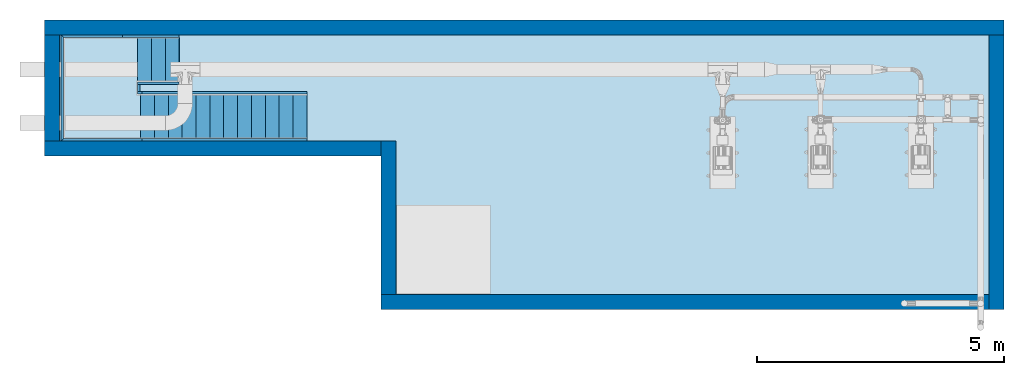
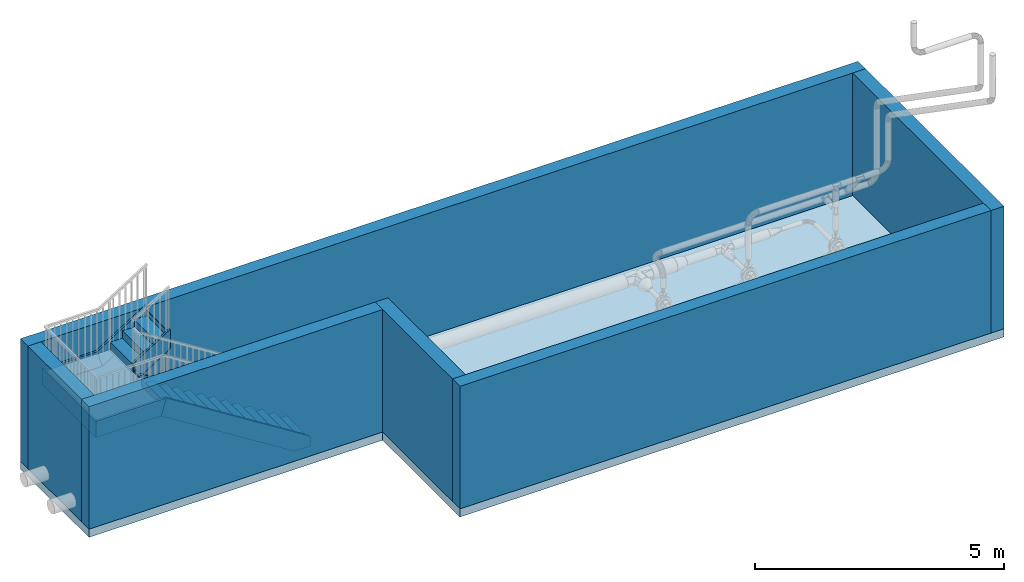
# One storey, part 1 of 12: 8 members, 6 walls, 2 slabs, 2 stair flights, 1 element without a shape of its own.
"""IFC2X3 building model written with IfcOpenShell, lengths in millimetres."""

from ifc_helpers import new_model, entity, si_unit, converted_unit, direction, frame, frame_2d, origin, place, context, subcontext, project, spatial, polyline, rectangle, outline, extrude, faceted_brep, material, layer, layer_set, layer_usage, type_object, element, aggregate, save


model = new_model("IFC2X3")

# Units and contexts
model_context = context("Model", 3, precision=0.01, world=origin(), true_north=direction((6.123031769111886e-17, 1.0)))
body_context = subcontext(model_context, "Body", "Model", "MODEL_VIEW")
ifc_project = project(units=[si_unit("LENGTHUNIT", "METRE", prefix="MILLI"), converted_unit("PLANEANGLEUNIT", "DEGREE", entity("IfcPlaneAngleMeasure", 0.017453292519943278), si_unit("PLANEANGLEUNIT", "RADIAN"), dimensions=[0, 0, 0, 0, 0, 0, 0]), si_unit("AREAUNIT", "SQUARE_METRE")], contexts=[model_context])

# Site, building, storey
site_placement = place(None, frame((7776.576483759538, 118.3519876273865, 0.0)))
site = spatial("IfcSite", under=ifc_project, at=site_placement, Name="Default", CompositionType="ELEMENT")
building_placement = place(site_placement, origin())
building = spatial("IfcBuilding", under=site, at=building_placement, Name="Bygning (endres i Project Information)", CompositionType="ELEMENT")
storey_placement = place(building_placement, frame((0.0, 0.0, 11000.0)))
storey = spatial("IfcBuildingStorey", under=building, at=storey_placement, Name="Plan U2 - Arbeid", CompositionType="ELEMENT", Elevation=10999.999999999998)

# Stair, members
type_product = type_object("IfcTypeProduct", Name="Assembled Stair:Stairs 1")
stair_placement = place(storey_placement, origin())
stair = element("IfcStair", 1, at=stair_placement, inside=storey, type_object=type_product, Name="Assembled Stair:Stair", ObjectType="Assembled Stair:Stairs 1", ShapeType="HALF_TURN_STAIR")
ifc_material_1 = material(Name="<Unnamed>")
member_type = type_object("IfcMemberType", Name="Stringer:Stringer - 50 mm Width", PredefinedType="STRINGER")
member_1_placement = place(stair_placement, origin())
member_1 = element("IfcMember", 2, at=member_1_placement, type_object=member_type, material=ifc_material_1, Name="Assembled Stair:Stair:2490742 Stringer 1", ObjectType="Stringer:Stringer - 50 mm Width", context=body_context, shape_type="SweptSolid", body=[
    extrude(outline(polyline([(-1432.2587999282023, -904.9236863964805), (-1061.600032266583, -904.9236863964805), (2020.8260618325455, 1037.7818350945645), (1905.2915702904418, 1437.7818350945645), (-1432.2587999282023, -665.7162973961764), (-1432.2587999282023, -904.9236863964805)])), frame((16741.742574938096, 32148.302500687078, 904.9236863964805), z_axis=(0.0, 1.0, 0.0), x_axis=(-1.0, 0.0, 0.0)), (0.0, 0.0, 1.0), 50.00000000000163),
])
member_2_placement = place(stair_placement, origin())
member_2 = element("IfcMember", 3, at=member_2_placement, type_object=member_type, material=ifc_material_1, Name="Assembled Stair:Stair:2490742 Stringer 2", ObjectType="Stringer:Stringer - 50 mm Width", context=body_context, shape_type="SweptSolid", body=[
    extrude(outline(polyline([(-1758.0348563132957, -1141.078691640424), (-1387.3760886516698, -1141.078691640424), (1661.9651436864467, 780.7750262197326), (1661.9651436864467, 1201.6268298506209), (1579.5155139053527, 1201.6268298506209), (-1758.0348563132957, -901.8713026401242), (-1758.0348563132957, -1141.078691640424)])), frame((16415.966518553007, 33098.302500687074, 1141.078691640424), z_axis=(0.0, 1.0, 0.0), x_axis=(-1.0, 0.0, 0.0)), (0.0, 0.0, 1.0), 50.00000000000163),
])
member_3_placement = place(stair_placement, origin())
member_3 = element("IfcMember", 4, at=member_3_placement, type_object=member_type, material=ifc_material_1, Name="Assembled Stair:Stair:2490742 Stringer 3", ObjectType="Stringer:Stringer - 50 mm Width", context=body_context, shape_type="SweptSolid", body=[
    extrude(outline(polyline([(-583.3015416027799, -200.0), (767.1192075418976, -200.0), (515.0183672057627, 200.0), (-698.8360331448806, 200.0), (-583.3015416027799, -200.0)])), frame((15051.660182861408, 34248.37469491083, 2484.517197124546), z_axis=(0.0, 1.0, 0.0), x_axis=(0.8459953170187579, 0.0, 0.5331903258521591)), (0.0, 0.0, 1.0), 50.0000000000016),
])
member_4_placement = place(stair_placement, origin())
member_4 = element("IfcMember", 5, at=member_4_placement, type_object=member_type, material=ifc_material_1, Name="Assembled Stair:Stair:2490742 Stringer 4", ObjectType="Stringer:Stringer - 50 mm Width", context=body_context, shape_type="SweptSolid", body=[
    extrude(outline(polyline([(-370.40622864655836, -200.0), (622.5070689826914, -200.0), (370.40622864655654, 200.0), (-622.5070689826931, 200.0), (-370.40622864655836, -200.0)])), frame((15174.001374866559, 33298.37469491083, 2561.6229904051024), z_axis=(0.0, 1.0, 0.0), x_axis=(0.8459953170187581, 0.0, 0.5331903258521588)), (0.0, 0.0, 1.0), 50.0000000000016),
])
member_5_placement = place(stair_placement, frame((13204.001374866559, 34248.37469491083, 1942.7055214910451)))
member_5 = element("IfcMember", 6, at=member_5_placement, type_object=member_type, material=ifc_material_1, Name="Assembled Stair:Stair:2490742 Stringer 5", ObjectType="Stringer:Stringer - 50 mm Width", context=body_context, shape_type="Brep", body=[
    faceted_brep([(1247.5503702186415, 0.0, 400.0), (1247.5503702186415, 50.0, 400.0), (0.0, 50.0, 400.0), (50.0, 0.0, 400.0), (1363.0848617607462, 0.0, 0.0), (50.0, 0.0, 0.0), (1363.0848617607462, 50.0, 0.0), (0.0, 50.0, 0.0)], [[[0, 1, 2, 3]], [[4, 0, 3, 5]], [[6, 4, 5, 7]], [[1, 6, 7, 2]], [[1, 0, 4, 6]], [[2, 7, 5, 3]]]),
])
member_6_placement = place(stair_placement, origin())
member_6 = element("IfcMember", 7, at=member_6_placement, type_object=member_type, material=ifc_material_1, Name="Assembled Stair:Stair:2490742 Stringer 6", ObjectType="Stringer:Stringer - 50 mm Width", context=body_context, shape_type="SweptSolid", body=[
    extrude(outline(polyline([(-1075.0360971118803, -25.0), (1075.0360971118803, -25.0), (1025.0360971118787, 25.0), (-1025.0360971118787, 25.0), (-1075.0360971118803, -25.0)])), frame((13229.001374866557, 33223.33859779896, 1942.705521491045), z_axis=(0.0, 0.0, 1.0), x_axis=(0.0, -1.0, 0.0)), (0.0, 0.0, 1.0), 400.0),
])
member_7_placement = place(stair_placement, frame((13204.00137486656, 32148.302500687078, 1942.7055214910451)))
member_7 = element("IfcMember", 8, at=member_7_placement, type_object=member_type, material=ifc_material_1, Name="Assembled Stair:Stair:2490742 Stringer 7", ObjectType="Stringer:Stringer - 50 mm Width", context=body_context, shape_type="Brep", body=[
    faceted_brep([(50.0, 50.0, 400.0), (0.0, 0.0, 400.0), (1632.4496297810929, 0.0, 400.0), (1632.4496297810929, 50.0, 400.0), (50.0, 50.0, 0.0), (1516.91513823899, 50.0, 0.0), (0.0, 0.0, 0.0), (1516.91513823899, 0.0, 0.0)], [[[0, 1, 2, 3]], [[4, 0, 3, 5]], [[6, 4, 5, 7]], [[1, 6, 7, 2]], [[1, 0, 4, 6]], [[2, 7, 5, 3]]]),
])
member_8_placement = place(stair_placement, origin())
member_8 = element("IfcMember", 9, at=member_8_placement, type_object=member_type, material=ifc_material_1, Name="Assembled Stair:Stair:2490742 Stringer 9", ObjectType="Stringer:Stringer - 50 mm Width", context=body_context, shape_type="SweptSolid", body=[
    extrude(rectangle(XDim=150.07219422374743, YDim=49.99999999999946, at=frame_2d((0.0, -1.0835776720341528e-12), x_axis=(1.0, 0.0))), frame((14779.001374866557, 33223.33859779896, 1942.705521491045), z_axis=(0.0, 0.0, 1.0), x_axis=(0.0, 1.0, 0.0)), (0.0, 0.0, 1.0), 400.0),
])

# Slab
ifc_material_2 = material(Name="Default Floor")
ifc_layer_1 = layer(ifc_material_2, 200.0)
ifc_layer_set_1 = layer_set([ifc_layer_1], Name="Floor:Generic 200mm")
ifc_layer_usage_1 = layer_usage(ifc_layer_set_1, "AXIS3", "POSITIVE", 0.0)
slab_type_1 = type_object("IfcSlabType", Name="Floor:Generic 200mm", PredefinedType="FLOOR", material=ifc_layer_set_1)
slab_1_placement = place(storey_placement, origin())
element("IfcSlab", 10, at=slab_1_placement, inside=storey, type_object=slab_type_1, material=ifc_layer_usage_1, Name="Floor:Generic 200mm", ObjectType="Floor:Generic 200mm", PredefinedType="FLOOR", context=body_context, shape_type="SweptSolid", body=[
    extrude(outline(polyline([(118.03012993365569, -8733.333333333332), (2867.4849350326, -8733.333333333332), (2867.4849350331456, 10666.666666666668), (-2985.515064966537, 10666.666666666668), (-2985.515064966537, -1933.3333333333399), (118.03012993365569, -1933.3333333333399), (118.03012993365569, -8733.333333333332)])), frame((21607.334708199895, 31730.27237075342, 0.0), z_axis=(0.0, 0.0, -1.0), x_axis=(0.0, 1.0, 0.0)), (0.0, 0.0, 1.0), 200.0),
])

slab_type_2 = type_object("IfcSlabType", Name="Non-Monolithic Landing:Non-Monolithic Landing", PredefinedType="LANDING")
slab_2_placement = place(stair_placement, origin())
slab_2 = element("IfcSlab", 11, at=slab_2_placement, type_object=slab_type_2, material=ifc_material_1, Name="Assembled Stair:Stair:2490742 Landing 1", ObjectType="Non-Monolithic Landing:Non-Monolithic Landing", PredefinedType="LANDING", context=body_context, shape_type="SweptSolid", body=[
    extrude(outline(polyline([(-1007.1737975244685, -471.42857142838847), (-107.1737975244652, -471.42857142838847), (-107.1737975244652, -411.428571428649), (142.89839669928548, -411.428571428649), (1042.8983966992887, -411.428571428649), (1042.8983966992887, 1088.5714285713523), (-1007.1737975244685, 1088.5714285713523), (-1007.1737975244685, -471.42857142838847)])), frame((14342.57280343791, 33205.47629821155, 2244.1176470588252), z_axis=(0.0, 0.0, 1.0), x_axis=(0.0, 1.0, 0.0)), (0.0, 0.0, 1.0), 49.99999999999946),
])

# Walls
ifc_material_3 = material(Name="Default Wall")
ifc_layer_2 = layer(ifc_material_3, 300.0)
ifc_layer_set_2 = layer_set([ifc_layer_2], Name="Basic Wall:Generic - 300mm")
ifc_layer_usage_2 = layer_usage(ifc_layer_set_2, "AXIS2", "NEGATIVE", 149.99999999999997)
wall_type = type_object("IfcWallType", Name="Basic Wall:Generic - 300mm", PredefinedType="STANDARD", material=ifc_layer_set_2)
wall_1_placement = place(storey_placement, frame((12874.001374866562, 34447.75730578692, 0.0)))
element("IfcWallStandardCase", 12, at=wall_1_placement, inside=storey, type_object=wall_type, material=ifc_layer_usage_2, Name="Basic Wall:Generic - 300mm", ObjectType="Basic Wall:Generic - 300mm", context=body_context, shape_type="SweptSolid", body=[
    extrude(rectangle(XDim=19400.000000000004, YDim=300.00000000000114, at=frame_2d((9700.000000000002, -1.0373923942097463e-12), x_axis=(-1.0, 0.0))), origin(), (0.0, 0.0, 1.0), 3000.0000000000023),
])
ifc_layer_usage_3 = layer_usage(ifc_layer_set_2, "AXIS2", "NEGATIVE", 149.99999999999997)
wall_2_placement = place(storey_placement, frame((32124.001374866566, 34297.75730578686, 0.0), z_axis=(0.0, 0.0, 1.0), x_axis=(0.0, -1.0, 0.0)))
element("IfcWallStandardCase", 13, at=wall_2_placement, inside=storey, type_object=wall_type, material=ifc_layer_usage_3, Name="Basic Wall:Generic - 300mm", ObjectType="Basic Wall:Generic - 300mm", context=body_context, shape_type="SweptSolid", body=[
    extrude(rectangle(XDim=5553.000000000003, YDim=300.00000000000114, at=frame_2d((2776.5000000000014, 1.7053025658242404e-13), x_axis=(-1.0, 0.0))), origin(), (0.0, 0.0, 1.0), 3000.0000000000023),
])
ifc_layer_usage_4 = layer_usage(ifc_layer_set_2, "AXIS2", "NEGATIVE", 149.99999999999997)
wall_3_placement = place(storey_placement, frame((31974.001374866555, 28894.757305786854, 0.0), z_axis=(0.0, 0.0, 1.0), x_axis=(-1.0, 0.0, 0.0)))
element("IfcWallStandardCase", 14, at=wall_3_placement, inside=storey, type_object=wall_type, material=ifc_layer_usage_4, Name="Basic Wall:Generic - 300mm", ObjectType="Basic Wall:Generic - 300mm", context=body_context, shape_type="SweptSolid", body=[
    extrude(rectangle(XDim=12299.999999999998, YDim=300.0000000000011, at=frame_2d((6149.999999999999, 4.263256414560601e-14), x_axis=(-1.0, 0.0))), origin(), (0.0, 0.0, 1.0), 3000.0000000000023),
])
ifc_layer_usage_5 = layer_usage(ifc_layer_set_2, "AXIS2", "POSITIVE", -149.99999999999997)
wall_4_placement = place(storey_placement, frame((13024.001374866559, 32148.302500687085, 0.0), z_axis=(0.0, 0.0, 1.0), x_axis=(0.0, 1.0, 0.0)))
element("IfcWallStandardCase", 15, at=wall_4_placement, inside=storey, type_object=wall_type, material=ifc_layer_usage_5, Name="Basic Wall:Generic - 300mm", ObjectType="Basic Wall:Generic - 300mm", context=body_context, shape_type="SweptSolid", body=[
    extrude(rectangle(XDim=2149.4548050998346, YDim=300.00000000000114, at=frame_2d((1074.7274025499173, -3.268496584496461e-13), x_axis=(-1.0, 0.0))), origin(), (0.0, 0.0, 1.0), 3000.0000000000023),
])
ifc_layer_usage_6 = layer_usage(ifc_layer_set_2, "AXIS2", "NEGATIVE", 149.99999999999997)
wall_5_placement = place(storey_placement, frame((12874.001374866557, 31998.302500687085, 0.0)))
element("IfcWallStandardCase", 16, at=wall_5_placement, inside=storey, type_object=wall_type, material=ifc_layer_usage_6, Name="Basic Wall:Generic - 300mm", ObjectType="Basic Wall:Generic - 300mm", context=body_context, shape_type="SweptSolid", body=[
    extrude(rectangle(XDim=6800.0000000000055, YDim=300.00000000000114, at=frame_2d((3400.0000000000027, -1.2079226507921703e-12), x_axis=(-1.0, 0.0))), origin(), (0.0, 0.0, 1.0), 3000.0000000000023),
])
ifc_layer_usage_7 = layer_usage(ifc_layer_set_2, "AXIS2", "NEGATIVE", 149.99999999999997)
wall_6_placement = place(storey_placement, frame((19824.00137486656, 29044.757305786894, 0.0), z_axis=(0.0, 0.0, 1.0), x_axis=(0.0, 1.0, 0.0)))
element("IfcWallStandardCase", 17, at=wall_6_placement, inside=storey, type_object=wall_type, material=ifc_layer_usage_7, Name="Basic Wall:Generic - 300mm", ObjectType="Basic Wall:Generic - 300mm", context=body_context, shape_type="SweptSolid", body=[
    extrude(rectangle(XDim=3103.545194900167, YDim=300.00000000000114, at=frame_2d((1551.7725974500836, 4.831690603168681e-13), x_axis=(-1.0, 0.0))), origin(), (0.0, 0.0, 1.0), 3000.0000000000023),
])

# Stair flight
stair_flight_type = type_object("IfcStairFlightType", Name="Non-Monolithic Run:50 mm Tread 10 mm Riser", PredefinedType="STRAIGHT")
stair_flight_1_placement = place(stair_placement, origin())
stair_flight_1 = element("IfcStairFlight", 18, at=stair_flight_1_placement, type_object=stair_flight_type, material=ifc_material_1, Name="Assembled Stair:Stair:2490742 Run 1", ObjectType="Non-Monolithic Run:50 mm Tread 10 mm Riser", NumberOfRiser=13, NumberOfTreads=12, RiserHeight=0.5789717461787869, TreadLength=0.9186351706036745, context=body_context, shape_type="SweptSolid", body=[
    extrude(rectangle(XDim=900.0000000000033, YDim=9.999999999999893, at=frame_2d((0.0, 1.0831335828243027e-12), x_axis=(1.0, 0.0))), frame((18169.001374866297, 32648.302500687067, 0.0), z_axis=(0.0, 0.0, 1.0), x_axis=(0.0, -1.0, 0.0)), (0.0, 0.0, 1.0), 126.47058823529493),
    extrude(rectangle(XDim=279.99999999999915, YDim=900.0000000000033, at=frame_2d((1.0800249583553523e-12, 0.0), x_axis=(1.0, 0.0))), frame((18034.001374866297, 32648.302500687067, 126.47058823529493)), (0.0, 0.0, 1.0), 49.99999999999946),
    extrude(rectangle(XDim=900.0000000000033, YDim=9.999999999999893, at=frame_2d((0.0, 1.0831335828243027e-12), x_axis=(1.0, 0.0))), frame((17889.0013748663, 32648.302500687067, 126.47058823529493), z_axis=(0.0, 0.0, 1.0), x_axis=(0.0, -1.0, 0.0)), (0.0, 0.0, 1.0), 176.47058823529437),
    extrude(rectangle(XDim=280.00000000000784, YDim=900.0000000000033, at=frame_2d((-3.254285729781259e-12, 0.0), x_axis=(1.0, 0.0))), frame((17754.0013748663, 32648.302500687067, 302.9411764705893)), (0.0, 0.0, 1.0), 49.99999999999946),
    extrude(rectangle(XDim=900.0000000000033, YDim=9.999999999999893, at=frame_2d((0.0, -1.0831335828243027e-12), x_axis=(1.0, 0.0))), frame((17609.001374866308, 32648.30250068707, 302.9411764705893), z_axis=(0.0, 0.0, 1.0), x_axis=(0.0, -1.0, 0.0)), (0.0, 0.0, 1.0), 176.47058823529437),
    extrude(rectangle(XDim=280.00000000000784, YDim=900.0000000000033, at=frame_2d((-5.4143356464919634e-12, 0.0), x_axis=(1.0, 0.0))), frame((17474.001374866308, 32648.30250068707, 479.4117647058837)), (0.0, 0.0, 1.0), 49.99999999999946),
    extrude(rectangle(XDim=900.0000000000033, YDim=9.999999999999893, at=frame_2d((0.0, 1.0831335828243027e-12), x_axis=(1.0, 0.0))), frame((17329.001374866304, 32648.30250068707, 479.4117647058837), z_axis=(0.0, 0.0, 1.0), x_axis=(0.0, -1.0, 0.0)), (0.0, 0.0, 1.0), 176.47058823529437),
    extrude(rectangle(XDim=280.00000000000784, YDim=900.0000000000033, at=frame_2d((-3.254285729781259e-12, 0.0), x_axis=(1.0, 0.0))), frame((17194.001374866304, 32648.30250068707, 655.882352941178)), (0.0, 0.0, 1.0), 49.99999999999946),
    extrude(rectangle(XDim=900.0000000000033, YDim=9.999999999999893, at=frame_2d((0.0, -1.0831335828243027e-12), x_axis=(1.0, 0.0))), frame((17049.001374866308, 32648.30250068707, 655.882352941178), z_axis=(0.0, 0.0, 1.0), x_axis=(0.0, -1.0, 0.0)), (0.0, 0.0, 1.0), 176.47058823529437),
    extrude(rectangle(XDim=280.00000000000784, YDim=900.0000000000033, at=frame_2d((-3.254285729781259e-12, 0.0), x_axis=(1.0, 0.0))), frame((16914.001374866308, 32648.30250068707, 832.3529411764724)), (0.0, 0.0, 1.0), 49.99999999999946),
    extrude(rectangle(XDim=900.0000000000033, YDim=9.999999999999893, at=frame_2d((0.0, -1.0831335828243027e-12), x_axis=(1.0, 0.0))), frame((16769.001374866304, 32648.30250068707, 832.3529411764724), z_axis=(0.0, 0.0, 1.0), x_axis=(0.0, -1.0, 0.0)), (0.0, 0.0, 1.0), 176.47058823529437),
    extrude(rectangle(XDim=280.00000000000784, YDim=900.0000000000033, at=frame_2d((-3.254285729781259e-12, 0.0), x_axis=(1.0, 0.0))), frame((16634.0013748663, 32648.30250068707, 1008.8235294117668)), (0.0, 0.0, 1.0), 49.99999999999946),
    extrude(rectangle(XDim=900.0000000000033, YDim=9.999999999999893, at=frame_2d((0.0, 1.0831335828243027e-12), x_axis=(1.0, 0.0))), frame((16489.001374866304, 32648.302500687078, 1008.8235294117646), z_axis=(0.0, 0.0, 1.0), x_axis=(0.0, -1.0, 0.0)), (0.0, 0.0, 1.0), 176.47058823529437),
    extrude(rectangle(XDim=280.00000000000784, YDim=900.0000000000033, at=frame_2d((-3.254285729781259e-12, 0.0), x_axis=(1.0, 0.0))), frame((16354.001374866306, 32648.302500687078, 1185.294117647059)), (0.0, 0.0, 1.0), 49.99999999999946),
    extrude(rectangle(XDim=900.0000000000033, YDim=9.999999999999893, at=frame_2d((0.0, -1.0831335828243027e-12), x_axis=(1.0, 0.0))), frame((16209.001374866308, 32648.302500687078, 1185.2941176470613), z_axis=(0.0, 0.0, 1.0), x_axis=(0.0, -1.0, 0.0)), (0.0, 0.0, 1.0), 176.47058823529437),
    extrude(rectangle(XDim=280.00000000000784, YDim=900.0000000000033, at=frame_2d((-3.254285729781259e-12, 0.0), x_axis=(1.0, 0.0))), frame((16074.001374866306, 32648.302500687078, 1361.7647058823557)), (0.0, 0.0, 1.0), 49.99999999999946),
    extrude(rectangle(XDim=900.0000000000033, YDim=9.999999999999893, at=frame_2d((0.0, 1.0831335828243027e-12), x_axis=(1.0, 0.0))), frame((15929.001374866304, 32648.302500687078, 1361.7647058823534), z_axis=(0.0, 0.0, 1.0), x_axis=(0.0, -1.0, 0.0)), (0.0, 0.0, 1.0), 176.47058823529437),
    extrude(rectangle(XDim=280.00000000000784, YDim=900.0000000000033, at=frame_2d((-3.254285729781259e-12, 0.0), x_axis=(1.0, 0.0))), frame((15794.001374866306, 32648.302500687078, 1538.2352941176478)), (0.0, 0.0, 1.0), 49.99999999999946),
    extrude(rectangle(XDim=900.0000000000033, YDim=9.999999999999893, at=frame_2d((0.0, 1.0831335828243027e-12), x_axis=(1.0, 0.0))), frame((15649.001374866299, 32648.302500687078, 1538.2352941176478), z_axis=(0.0, 0.0, 1.0), x_axis=(0.0, -1.0, 0.0)), (0.0, 0.0, 1.0), 176.47058823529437),
    extrude(rectangle(XDim=280.00000000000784, YDim=900.0000000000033, at=frame_2d((-3.254285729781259e-12, 0.0), x_axis=(1.0, 0.0))), frame((15514.001374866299, 32648.302500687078, 1714.7058823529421)), (0.0, 0.0, 1.0), 49.99999999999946),
    extrude(rectangle(XDim=900.0000000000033, YDim=9.999999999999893, at=frame_2d((0.0, -1.0831335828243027e-12), x_axis=(1.0, 0.0))), frame((15369.00137486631, 32648.30250068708, 1714.7058823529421), z_axis=(0.0, 0.0, 1.0), x_axis=(0.0, -1.0, 0.0)), (0.0, 0.0, 1.0), 176.47058823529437),
    extrude(rectangle(XDim=280.00000000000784, YDim=900.0000000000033, at=frame_2d((-3.254285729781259e-12, 0.0), x_axis=(1.0, 0.0))), frame((15234.001374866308, 32648.30250068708, 1891.1764705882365)), (0.0, 0.0, 1.0), 49.99999999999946),
    extrude(rectangle(XDim=900.0000000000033, YDim=9.999999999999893, at=frame_2d((0.0, 1.0831335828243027e-12), x_axis=(1.0, 0.0))), frame((15089.001374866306, 32648.30250068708, 1891.1764705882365), z_axis=(0.0, 0.0, 1.0), x_axis=(0.0, -1.0, 0.0)), (0.0, 0.0, 1.0), 176.47058823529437),
    extrude(rectangle(XDim=900.0000000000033, YDim=9.999999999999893, at=frame_2d((0.0, -1.0831335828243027e-12), x_axis=(1.0, 0.0))), frame((14809.0013748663, 32648.30250068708, 2067.647058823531), z_axis=(0.0, 0.0, 1.0), x_axis=(0.0, -1.0, 0.0)), (0.0, 0.0, 1.0), 176.47058823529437),
    extrude(rectangle(XDim=280.00000000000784, YDim=900.0000000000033, at=frame_2d((-3.254285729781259e-12, 0.0), x_axis=(1.0, 0.0))), frame((14954.001374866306, 32648.30250068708, 2067.647058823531)), (0.0, 0.0, 1.0), 49.99999999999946),
])

stair_flight_2_placement = place(stair_placement, origin())
stair_flight_2 = element("IfcStairFlight", 19, at=stair_flight_2_placement, type_object=stair_flight_type, material=ifc_material_1, Name="Assembled Stair:Stair:2490742 Run 2", ObjectType="Non-Monolithic Run:50 mm Tread 10 mm Riser", NumberOfRiser=4, NumberOfTreads=3, RiserHeight=0.5789717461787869, TreadLength=0.9186351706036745, context=body_context, shape_type="SweptSolid", body=[
    extrude(rectangle(XDim=900.0000000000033, YDim=9.999999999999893, at=frame_2d((0.0, -1.0831335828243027e-12), x_axis=(1.0, 0.0))), frame((14759.001374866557, 33798.37469491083, 2244.1176470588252), z_axis=(0.0, 0.0, 1.0), x_axis=(0.0, 1.0, 0.0)), (0.0, 0.0, 1.0), 176.47058823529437),
    extrude(rectangle(XDim=280.0000000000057, YDim=900.0000000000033, at=frame_2d((-2.1742607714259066e-12, 0.0), x_axis=(1.0, 0.0))), frame((14894.001374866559, 33798.37469491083, 2420.58823529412), z_axis=(0.0, 0.0, 1.0), x_axis=(-1.0, 0.0, 0.0)), (0.0, 0.0, 1.0), 49.99999999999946),
    extrude(rectangle(XDim=900.0000000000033, YDim=9.999999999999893, at=frame_2d((0.0, -1.0831335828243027e-12), x_axis=(1.0, 0.0))), frame((15039.001374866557, 33798.37469491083, 2420.58823529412), z_axis=(0.0, 0.0, 1.0), x_axis=(0.0, 1.0, 0.0)), (0.0, 0.0, 1.0), 176.47058823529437),
    extrude(rectangle(XDim=279.9999999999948, YDim=900.0000000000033, at=frame_2d((3.240074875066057e-12, -2.1600499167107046e-12), x_axis=(1.0, 0.0))), frame((15174.001374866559, 33798.37469491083, 2597.058823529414), z_axis=(0.0, 0.0, 1.0), x_axis=(-1.0, 0.0, 0.0)), (0.0, 0.0, 1.0), 49.99999999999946),
    extrude(rectangle(XDim=900.0000000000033, YDim=9.999999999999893, at=frame_2d((0.0, -1.0831335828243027e-12), x_axis=(1.0, 0.0))), frame((15319.001374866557, 33798.37469491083, 2597.058823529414), z_axis=(0.0, 0.0, 1.0), x_axis=(0.0, 1.0, 0.0)), (0.0, 0.0, 1.0), 176.47058823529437),
    extrude(rectangle(XDim=900.0000000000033, YDim=9.999999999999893, at=frame_2d((0.0, -1.0831335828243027e-12), x_axis=(1.0, 0.0))), frame((15599.001374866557, 33798.37469491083, 2773.5294117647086), z_axis=(0.0, 0.0, 1.0), x_axis=(0.0, 1.0, 0.0)), (0.0, 0.0, 1.0), 176.47058823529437),
    extrude(rectangle(XDim=279.9999999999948, YDim=900.0000000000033, at=frame_2d((1.0800249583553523e-12, -2.1600499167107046e-12), x_axis=(1.0, 0.0))), frame((15454.001374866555, 33798.37469491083, 2773.5294117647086), z_axis=(0.0, 0.0, 1.0), x_axis=(-1.0, 0.0, 0.0)), (0.0, 0.0, 1.0), 49.99999999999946),
])

aggregate(stair, [stair_flight_1, stair_flight_2, slab_2, member_1, member_2, member_3, member_4, member_5, member_6, member_7, member_8])

save(model, "model.ifc")
